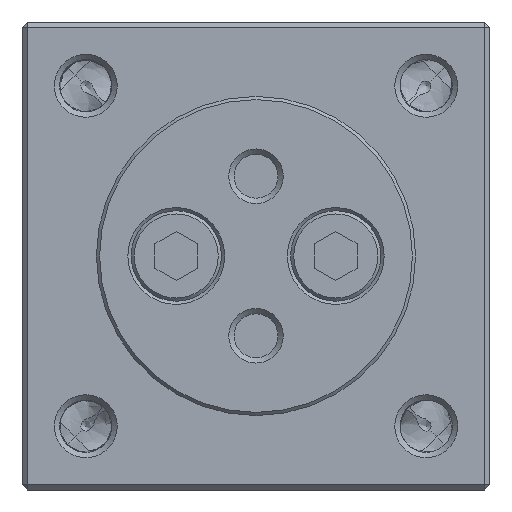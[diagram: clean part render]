
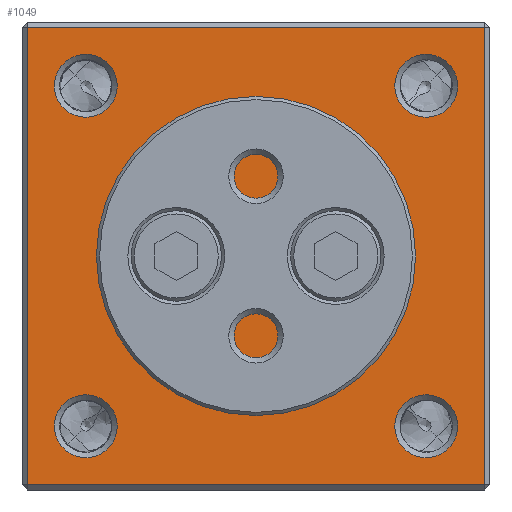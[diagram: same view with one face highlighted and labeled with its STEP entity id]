
A CAD part, front view. The second image highlights one B-rep face of the part: STEP entity #1049.
In plain terms, the highlighted planar face has unit normal (0, -1, 0).
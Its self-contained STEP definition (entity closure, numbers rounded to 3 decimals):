
#940=CARTESIAN_POINT('',(7.5,0.0,5.289));
#941=VERTEX_POINT('',#940);
#942=CARTESIAN_POINT('',(7.5,0.0,0.0));
#943=DIRECTION('',(0.0,-1.0,0.0));
#944=DIRECTION('',(0.0,0.0,-1.0));
#945=AXIS2_PLACEMENT_3D('',#942,#943,#944);
#946=CIRCLE('',#945,5.289);
#947=EDGE_CURVE('',#941,#941,#946,.T.);
#952=CARTESIAN_POINT('',(0.,0.0,0.));
#953=DIRECTION('',(0.0,1.0,0.0));
#954=DIRECTION('',(0.0,0.0,1.0));
#955=AXIS2_PLACEMENT_3D('',#952,#953,#954);
#956=PLANE('',#955);
#957=CARTESIAN_POINT('',(-21.5,0.0,21.5));
#958=VERTEX_POINT('',#957);
#959=CARTESIAN_POINT('',(21.5,0.0,21.5));
#960=VERTEX_POINT('',#959);
#961=CARTESIAN_POINT('',(-21.5,0.0,21.5));
#962=DIRECTION('',(1.0,0.0,0.0));
#963=VECTOR('',#962,43.);
#964=LINE('',#961,#963);
#965=EDGE_CURVE('',#958,#960,#964,.T.);
#966=ORIENTED_EDGE('',*,*,#965,.F.);
#967=CARTESIAN_POINT('',(-21.5,0.0,-21.5));
#968=VERTEX_POINT('',#967);
#969=CARTESIAN_POINT('',(-21.5,0.0,-21.5));
#970=DIRECTION('',(0.0,0.0,1.0));
#971=VECTOR('',#970,43.);
#972=LINE('',#969,#971);
#973=EDGE_CURVE('',#968,#958,#972,.T.);
#974=ORIENTED_EDGE('',*,*,#973,.F.);
#975=CARTESIAN_POINT('',(21.5,0.0,-21.5));
#976=VERTEX_POINT('',#975);
#977=CARTESIAN_POINT('',(21.5,0.0,-21.5));
#978=DIRECTION('',(-1.0,0.0,0.0));
#979=VECTOR('',#978,43.);
#980=LINE('',#977,#979);
#981=EDGE_CURVE('',#976,#968,#980,.T.);
#982=ORIENTED_EDGE('',*,*,#981,.F.);
#983=CARTESIAN_POINT('',(21.5,0.0,21.5));
#984=DIRECTION('',(0.0,0.0,-1.0));
#985=VECTOR('',#984,43.);
#986=LINE('',#983,#985);
#987=EDGE_CURVE('',#960,#976,#986,.T.);
#988=ORIENTED_EDGE('',*,*,#987,.F.);
#989=EDGE_LOOP('',(#966,#974,#982,#988));
#990=FACE_OUTER_BOUND('',#989,.T.);
#991=CARTESIAN_POINT('',(-7.5,0.0,5.289));
#992=VERTEX_POINT('',#991);
#993=CARTESIAN_POINT('',(-7.5,0.0,0.0));
#994=DIRECTION('',(0.0,-1.0,0.0));
#995=DIRECTION('',(0.0,0.0,-1.0));
#996=AXIS2_PLACEMENT_3D('',#993,#994,#995);
#997=CIRCLE('',#996,5.289);
#998=EDGE_CURVE('',#992,#992,#997,.T.);
#999=ORIENTED_EDGE('',*,*,#998,.F.);
#1000=EDGE_LOOP('',(#999));
#1001=FACE_BOUND('',#1000,.T.);
#1002=CARTESIAN_POINT('',(18.959,0.0,-16.0));
#1003=VERTEX_POINT('',#1002);
#1004=CARTESIAN_POINT('',(16.0,0.0,-16.0));
#1005=DIRECTION('',(0.0,-1.0,0.0));
#1006=DIRECTION('',(-1.0,0.0,0.0));
#1007=AXIS2_PLACEMENT_3D('',#1004,#1005,#1006);
#1008=CIRCLE('',#1007,2.959);
#1009=EDGE_CURVE('',#1003,#1003,#1008,.T.);
#1010=ORIENTED_EDGE('',*,*,#1009,.F.);
#1011=EDGE_LOOP('',(#1010));
#1012=FACE_BOUND('',#1011,.T.);
#1013=CARTESIAN_POINT('',(18.959,0.0,16.0));
#1014=VERTEX_POINT('',#1013);
#1015=CARTESIAN_POINT('',(16.0,0.0,16.0));
#1016=DIRECTION('',(0.0,-1.0,0.0));
#1017=DIRECTION('',(-1.0,0.0,0.0));
#1018=AXIS2_PLACEMENT_3D('',#1015,#1016,#1017);
#1019=CIRCLE('',#1018,2.959);
#1020=EDGE_CURVE('',#1014,#1014,#1019,.T.);
#1021=ORIENTED_EDGE('',*,*,#1020,.F.);
#1022=EDGE_LOOP('',(#1021));
#1023=FACE_BOUND('',#1022,.T.);
#1024=CARTESIAN_POINT('',(-13.041,0.0,16.0));
#1025=VERTEX_POINT('',#1024);
#1026=CARTESIAN_POINT('',(-16.0,0.0,16.0));
#1027=DIRECTION('',(0.0,-1.0,0.0));
#1028=DIRECTION('',(-1.0,0.0,0.0));
#1029=AXIS2_PLACEMENT_3D('',#1026,#1027,#1028);
#1030=CIRCLE('',#1029,2.959);
#1031=EDGE_CURVE('',#1025,#1025,#1030,.T.);
#1032=ORIENTED_EDGE('',*,*,#1031,.F.);
#1033=EDGE_LOOP('',(#1032));
#1034=FACE_BOUND('',#1033,.T.);
#1035=CARTESIAN_POINT('',(-13.041,0.0,-16.0));
#1036=VERTEX_POINT('',#1035);
#1037=CARTESIAN_POINT('',(-16.0,0.0,-16.0));
#1038=DIRECTION('',(0.0,-1.0,0.0));
#1039=DIRECTION('',(-1.0,0.0,0.0));
#1040=AXIS2_PLACEMENT_3D('',#1037,#1038,#1039);
#1041=CIRCLE('',#1040,2.959);
#1042=EDGE_CURVE('',#1036,#1036,#1041,.T.);
#1043=ORIENTED_EDGE('',*,*,#1042,.F.);
#1044=EDGE_LOOP('',(#1043));
#1045=FACE_BOUND('',#1044,.T.);
#1046=ORIENTED_EDGE('',*,*,#947,.F.);
#1047=EDGE_LOOP('',(#1046));
#1048=FACE_BOUND('',#1047,.T.);
#1049=ADVANCED_FACE('',(#990,#1001,#1012,#1023,#1034,#1045,#1048),#956,.F.);
